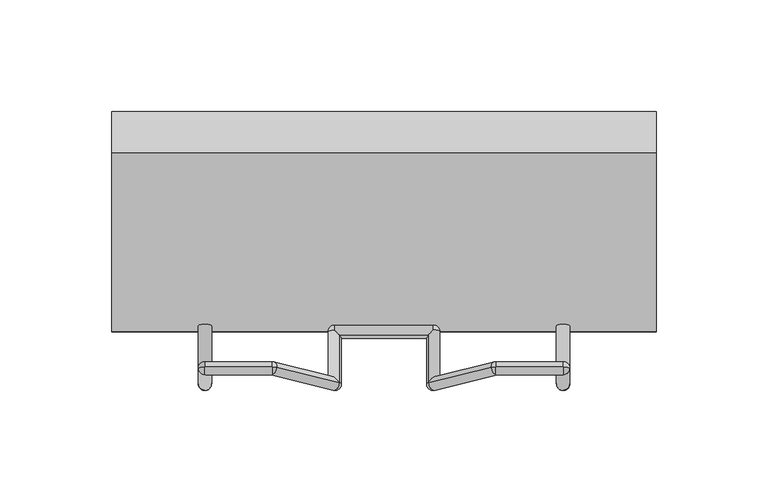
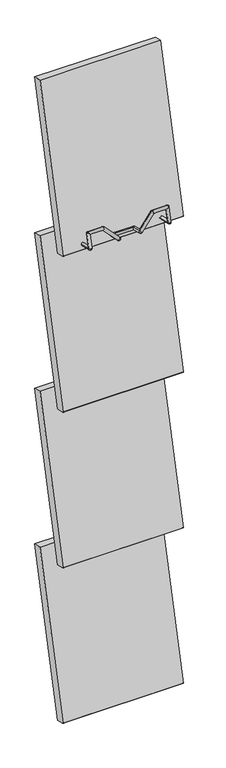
"""IFC4 building model written with IfcOpenShell, lengths in millimetres: furniture geometry, BK Library - Mag-Mag - 1440 - 1 Collum : BK Library - Mag-Mag - 1440 - 1 Collum."""

from ifc_helpers import new_model, si_unit, point, frame, frame_2d, origin, place, context, project, spatial, polyline, circle_curve, ellipse_curve, trimmed, segment, composite_curve, outline, extrude, source, transform, mapped, element, save
from ifc_brep_helpers import plane_surface, cylinder_surface, revolved_surface, advanced_brep


def furniture_4d4ee894(model_context):
    return source(origin(), model_context, "Body", "SolidModel", [
        advanced_brep(
        [(-79.9995394, -261.9406341, 1113.0660528), (-79.9995394, -264.144767, 1116.6912146), (-82.9995394, -261.2301197, 1115.9807002), (-82.9995394, -254.3618134, 1144.1556247), (-79.9995394, -253.651299, 1147.070272), (-79.9995394, -251.4471661, 1143.4451102), (-50.0045138, -253.651299, 1147.070272), (-47.8464944, -253.8682486, 1146.1803088), (-50.0045138, -251.4471661, 1143.4451102), (-21.9995394, -264.144767, 1116.6912146), (-19.9155642, -261.741221, 1113.8840783), (-19.84152, -260.7365549, 1118.0053844), (-24.9995394, -237.9129408, 1110.2965847), (-21.9995394, -234.9982934, 1109.5860702), (-21.9995394, -236.3098837, 1107.7607992), (-21.9995394, -238.6234552, 1107.3819373), (-24.1575588, -238.4065056, 1108.2719005), (22.0004606, -234.9982934, 1109.5860702), (25.0004606, -237.9129408, 1110.2965847), (24.15848, -238.4065056, 1108.2719005), (22.0004606, -238.6234552, 1107.3819373), (22.0004606, -236.3098837, 1107.7607992), (19.9164855, -261.741221, 1113.8840783), (22.0004606, -264.144767, 1116.6912146), (19.8424412, -260.7365549, 1118.0053844), (47.8474157, -253.8682486, 1146.1803088), (50.0054351, -253.651299, 1147.070272), (50.0054351, -251.4471661, 1143.4451102), (80.0004606, -253.651299, 1147.070272), (83.0004606, -254.3618134, 1144.1556247), (80.0004606, -251.4471661, 1143.4451102), (80.0004606, -264.144767, 1116.6912146), (80.0004606, -261.9406341, 1113.0660528), (83.0004606, -261.2301197, 1115.9807002), (-82.9995394, -225.2828022, 1107.2176888), (-76.9995394, -225.2828022, 1107.2176888), (-76.9995394, -261.2301197, 1115.9807002), (-76.9995394, -255.0723279, 1141.2409773), (-79.9995394, -257.2764608, 1144.8661391), (-51.2779383, -255.0723279, 1141.2409773), (-50.0045138, -257.2764608, 1144.8661391), (-24.1575588, -261.7236845, 1113.956016), (-19.84152, -239.5159978, 1112.8323702), (19.8424412, -239.5159978, 1112.8323702), (24.15848, -261.7236845, 1113.956016), (51.2788596, -255.0723279, 1141.2409773), (50.0054351, -257.2764608, 1144.8661391), (77.0004606, -255.0723279, 1141.2409773), (80.0004606, -257.2764608, 1144.8661391), (77.0004606, -261.2301197, 1115.9807002), (83.0004606, -225.2828022, 1107.2176888), (77.0004606, -225.2828022, 1107.2176888), (22.0004606, -237.2024264, 1113.211232), (-21.9995394, -237.2024264, 1113.211232)],
        [
            (0, 1, circle_curve(frame((-79.9995394, -261.2301197, 1115.9807002), z_axis=(-1.0, 0.0, 0.0), x_axis=(0.0, 0.23683814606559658, 0.9715491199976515)), 3.0)),
            (1, 2, circle_curve(frame((-79.9995394, -261.2301197, 1115.9807002), z_axis=(0.0, -0.23683814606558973, -0.9715491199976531), x_axis=(0.0, -0.9715491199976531, 0.23683814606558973)), 3.0)),
            (2, 0, circle_curve(frame((-79.9995394, -261.2301197, 1115.9807002), z_axis=(0.0, -0.9715491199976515, 0.2368381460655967), x_axis=(0.0, -0.2368381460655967, -0.9715491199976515)), 3.0)),
            (3, 4, circle_curve(frame((-79.9995394, -254.3618134, 1144.1556247), z_axis=(0.0, 0.971549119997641, -0.23683814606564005), x_axis=(1.0, 0.0, 0.0)), 3.0)),
            (4, 5, circle_curve(frame((-79.9995394, -254.3618134, 1144.1556247), z_axis=(-1.0, 0.0, 0.0), x_axis=(0.0, 0.23683814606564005, 0.971549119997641)), 3.0)),
            (5, 3, circle_curve(frame((-79.9995394, -254.3618134, 1144.1556247), z_axis=(0.0, 0.23683814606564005, 0.971549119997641), x_axis=(-1.0, 0.0, 0.0)), 3.0)),
            (6, 7, circle_curve(frame((-50.0045138, -254.3618134, 1144.1556247), z_axis=(0.0, 0.971549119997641, -0.23683814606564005), x_axis=(0.0, -0.23683814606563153, -0.971549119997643)), 3.0)),
            (7, 8, circle_curve(frame((-50.0045138, -254.3618134, 1144.1556247), z_axis=(-0.6946583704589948, 0.17036710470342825, 0.6988739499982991), x_axis=(0.7193398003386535, 0.16452160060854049, 0.6748947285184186)), 3.0)),
            (8, 6, circle_curve(frame((-50.0045138, -254.3618134, 1144.1556247), z_axis=(1.0, 0.0, 0.0), x_axis=(0.0, 0.23683814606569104, 0.9715491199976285)), 3.0)),
            (9, 10, circle_curve(frame((-21.9995394, -261.2301197, 1115.9807002), z_axis=(0.7193398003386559, 0.16452160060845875, 0.6748947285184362), x_axis=(0.0, 0.971549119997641, -0.23683814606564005)), 3.0)),
            (10, 11, circle_curve(frame((-21.9995394, -261.2301197, 1115.9807002), z_axis=(0.0, -0.9715491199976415, 0.2368381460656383), x_axis=(0.6946583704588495, -0.17036710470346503, -0.6988739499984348)), 3.0)),
            (11, 9, circle_curve(frame((-21.9995394, -261.2301197, 1115.9807002), z_axis=(0.6946583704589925, -0.17036710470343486, -0.6988739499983), x_axis=(0.0, -0.9715491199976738, 0.2368381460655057)), 3.0)),
            (12, 13, circle_curve(frame((-21.9995394, -237.9129408, 1110.2965847), z_axis=(0.0, -0.23683814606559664, -0.9715491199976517), x_axis=(-1.0, 0.0, 0.0)), 3.0)),
            (13, 14, circle_curve(frame((-21.9995394, -237.9129408, 1110.2965847), z_axis=(-1.0, 0.0, 0.0), x_axis=(0.0, 0.9715491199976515, -0.23683814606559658)), 3.0)),
            (14, 15, circle_curve(frame((-21.9995394, -237.9129408, 1110.2965847), z_axis=(-1.0, 0.0, 0.0), x_axis=(0.0, 0.9715491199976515, -0.23683814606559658)), 3.0)),
            (15, 16, circle_curve(frame((-21.9995394, -237.9129408, 1110.2965847), z_axis=(0.0, 0.9715491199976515, -0.23683814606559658), x_axis=(-1.0, 0.0, 0.0)), 3.0)),
            (16, 12, circle_curve(frame((-21.9995394, -237.9129408, 1110.2965847), z_axis=(0.0, 0.9715491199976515, -0.23683814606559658), x_axis=(-1.0, 0.0, 0.0)), 3.0)),
            (17, 18, circle_curve(frame((22.0004606, -237.9129408, 1110.2965847), z_axis=(0.0, -0.23683814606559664, -0.9715491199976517), x_axis=(0.0, -0.971549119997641, 0.23683814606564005)), 3.0)),
            (18, 19, circle_curve(frame((22.0004606, -237.9129408, 1110.2965847), z_axis=(0.0, 0.971549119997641, -0.23683814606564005), x_axis=(1.0, 0.0, 0.0)), 3.0)),
            (19, 20, circle_curve(frame((22.0004606, -237.9129408, 1110.2965847), z_axis=(0.0, 0.971549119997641, -0.23683814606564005), x_axis=(1.0, 0.0, 0.0)), 3.0)),
            (20, 21, circle_curve(frame((22.0004606, -237.9129408, 1110.2965847), z_axis=(1.0, 0.0, 0.0), x_axis=(0.0, 0.9715491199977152, -0.23683814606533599)), 3.0)),
            (21, 17, circle_curve(frame((22.0004606, -237.9129408, 1110.2965847), z_axis=(1.0, 0.0, 0.0), x_axis=(0.0, 0.9715491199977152, -0.23683814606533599)), 3.0)),
            (22, 23, circle_curve(frame((22.0004606, -261.2301197, 1115.9807002), z_axis=(-0.7193398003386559, 0.16452160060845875, 0.6748947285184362), x_axis=(-0.6946583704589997, -0.17036710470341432, -0.6988739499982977)), 3.0)),
            (23, 24, circle_curve(frame((22.0004606, -261.2301197, 1115.9807002), z_axis=(-0.6946583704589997, -0.17036710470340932, -0.6988739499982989), x_axis=(0.0, -0.9715491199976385, 0.23683814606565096)), 3.0)),
            (24, 22, circle_curve(frame((22.0004606, -261.2301197, 1115.9807002), z_axis=(-3.5409316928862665e-11, -0.9715491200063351, 0.23683814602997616), x_axis=(-0.6946583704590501, -0.1703671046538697, -0.6988739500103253)), 3.0)),
            (25, 26, circle_curve(frame((50.0054351, -254.3618134, 1144.1556247), z_axis=(0.0, 0.971549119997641, -0.23683814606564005), x_axis=(-0.7193398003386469, 0.16452160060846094, 0.6748947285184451)), 3.0)),
            (26, 27, circle_curve(frame((50.0054351, -254.3618134, 1144.1556247), z_axis=(-1.0, 0.0, 0.0), x_axis=(0.0, 0.2368381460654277, 0.9715491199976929)), 3.0)),
            (27, 25, circle_curve(frame((50.0054351, -254.3618134, 1144.1556247), z_axis=(0.6946583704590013, 0.17036710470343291, 0.6988739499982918), x_axis=(-0.7193398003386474, 0.16452160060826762, 0.6748947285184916)), 3.0)),
            (28, 29, circle_curve(frame((80.0004606, -254.3618134, 1144.1556247), z_axis=(0.0, 0.971549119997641, -0.23683814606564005), x_axis=(0.0, 0.23683814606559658, 0.9715491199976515)), 3.0)),
            (29, 30, circle_curve(frame((80.0004606, -254.3618134, 1144.1556247), z_axis=(0.0, 0.23683814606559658, 0.9715491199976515), x_axis=(1.0, 0.0, 0.0)), 3.0)),
            (30, 28, circle_curve(frame((80.0004606, -254.3618134, 1144.1556247), z_axis=(1.0, 0.0, -2.6767436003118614e-12), x_axis=(2.7551294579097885e-12, 0.23683814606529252, 0.9715491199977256)), 3.0)),
            (31, 32, circle_curve(frame((80.0004606, -261.2301197, 1115.9807002), z_axis=(1.0, 0.0, 0.0), x_axis=(0.0, -0.971549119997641, 0.23683814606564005)), 3.0)),
            (32, 33, circle_curve(frame((80.0004606, -261.2301197, 1115.9807002), z_axis=(0.0, -0.9715491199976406, 0.23683814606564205), x_axis=(0.0, -0.23683814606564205, -0.9715491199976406)), 3.0)),
            (33, 31, circle_curve(frame((80.0004606, -261.2301197, 1115.9807002), z_axis=(0.0, -0.2368381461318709, -0.9715491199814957), x_axis=(0.0, -0.9715491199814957, 0.2368381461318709)), 3.0)),
            (2, 34),
            (34, 35, circle_curve(frame((-79.9995394, -225.2828022, 1107.2176888), z_axis=(0.0, -0.9715491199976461, 0.23683814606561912), x_axis=(-1.0, 0.0, 0.0)), 3.0)),
            (35, 36),
            (36, 0, circle_curve(frame((-79.9995394, -261.2301197, 1115.9807002), z_axis=(0.0, 0.9715491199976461, -0.23683814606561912), x_axis=(-1.0, 0.0, 0.0)), 3.0)),
            (3, 2),
            (1, 36, circle_curve(frame((-79.9995394, -261.2301197, 1115.9807002), z_axis=(0.0, 0.23683814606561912, 0.9715491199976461), x_axis=(-1.0, 0.0, 0.0)), 3.0)),
            (36, 37),
            (37, 38, ellipse_curve(frame((-79.9995394, -254.3618134, 1144.1556247), z_axis=(-0.7071067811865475, -0.1674698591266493, -0.6869889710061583), x_axis=(0.7071067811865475, -0.1674698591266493, -0.6869889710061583)), 4.2426407, 3.0)),
            (38, 3, circle_curve(frame((-79.9995394, -254.3618134, 1144.1556247), z_axis=(0.0, -0.23683814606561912, -0.9715491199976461), x_axis=(-1.0, 0.0, 0.0)), 3.0)),
            (6, 4),
            (4, 38, circle_curve(frame((-79.9995394, -254.3618134, 1144.1556247), z_axis=(1.0, 0.0, 0.0), x_axis=(0.0, 0.23683814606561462, 0.9715491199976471)), 3.0)),
            (37, 39),
            (39, 40, ellipse_curve(frame((-50.0045138, -254.3618134, 1144.1556247), z_axis=(-0.9205048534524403, 0.09254003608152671, 0.37961448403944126), x_axis=(-0.3907311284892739, -0.21801066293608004, -0.8943156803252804)), 3.2590811, 3.0)),
            (40, 6, circle_curve(frame((-50.0045138, -254.3618134, 1144.1556247), z_axis=(-1.0, 0.0, 0.0), x_axis=(0.0, 0.23683814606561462, 0.9715491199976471)), 3.0)),
            (11, 7),
            (7, 40, circle_curve(frame((-50.0045138, -254.3618134, 1144.1556247), z_axis=(0.694658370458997, -0.17036710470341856, -0.6988739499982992), x_axis=(0.7193398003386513, 0.16452160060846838, 0.6748947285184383)), 3.0)),
            (39, 41),
            (41, 9, circle_curve(frame((-21.9995394, -261.2301197, 1115.9807002), z_axis=(-0.694658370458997, 0.17036710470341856, 0.6988739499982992), x_axis=(0.7193398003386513, 0.16452160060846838, 0.6748947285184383)), 3.0)),
            (42, 11),
            (10, 41, circle_curve(frame((-21.9995394, -261.2301197, 1115.9807002), z_axis=(0.0, 0.9715491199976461, -0.23683814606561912), x_axis=(0.719339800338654, 0.16452160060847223, 0.6748947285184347)), 3.0)),
            (41, 16),
            (15, 42, ellipse_curve(frame((-21.9995394, -237.9129408, 1110.2965847), z_axis=(-0.7071067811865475, -0.6869889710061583, 0.1674698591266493), x_axis=(0.7071067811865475, -0.6869889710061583, 0.1674698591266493)), 4.2426407, 3.0)),
            (43, 42),
            (14, 21),
            (20, 43, ellipse_curve(frame((22.0004606, -237.9129408, 1110.2965847), z_axis=(-0.7071067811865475, 0.6869889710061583, -0.16746985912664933), x_axis=(-0.7071067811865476, -0.6869889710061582, 0.1674698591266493)), 4.2426407, 3.0)),
            (24, 43),
            (19, 44),
            (44, 22, circle_curve(frame((22.0004606, -261.2301197, 1115.9807002), z_axis=(0.0, 0.9715491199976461, -0.23683814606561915), x_axis=(-0.7193398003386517, 0.16452160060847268, 0.6748947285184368)), 3.0)),
            (25, 24),
            (23, 44, circle_curve(frame((22.0004606, -261.2301197, 1115.9807002), z_axis=(0.6946583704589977, 0.17036710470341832, 0.6988739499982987), x_axis=(-0.7193398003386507, 0.16452160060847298, 0.674894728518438)), 3.0)),
            (44, 45),
            (45, 46, ellipse_curve(frame((50.0054351, -254.3618134, 1144.1556247), z_axis=(-0.9205048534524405, -0.09254003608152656, -0.37961448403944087), x_axis=(0.3907311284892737, -0.21801066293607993, -0.8943156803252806)), 3.2590811, 3.0)),
            (46, 25, circle_curve(frame((50.0054351, -254.3618134, 1144.1556247), z_axis=(-0.6946583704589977, -0.17036710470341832, -0.6988739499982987), x_axis=(-0.7193398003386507, 0.16452160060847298, 0.674894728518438)), 3.0)),
            (28, 26),
            (26, 46, circle_curve(frame((50.0054351, -254.3618134, 1144.1556247), z_axis=(1.0, 0.0, 0.0), x_axis=(0.0, 0.236838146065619, 0.9715491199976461)), 3.0)),
            (45, 47),
            (47, 48, ellipse_curve(frame((80.0004606, -254.3618134, 1144.1556247), z_axis=(-0.7071067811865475, 0.1674698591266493, 0.6869889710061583), x_axis=(-0.7071067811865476, -0.16746985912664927, -0.6869889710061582)), 4.2426407, 3.0)),
            (48, 28, circle_curve(frame((80.0004606, -254.3618134, 1144.1556247), z_axis=(-1.0, 0.0, 0.0), x_axis=(0.0, 0.236838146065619, 0.9715491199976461)), 3.0)),
            (33, 29),
            (29, 48, circle_curve(frame((80.0004606, -254.3618134, 1144.1556247), z_axis=(0.0, -0.23683814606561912, -0.9715491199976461), x_axis=(1.0, 0.0, 0.0)), 3.0)),
            (47, 49),
            (49, 31, circle_curve(frame((80.0004606, -261.2301197, 1115.9807002), z_axis=(0.0, 0.23683814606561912, 0.9715491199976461), x_axis=(1.0, 0.0, 0.0)), 3.0)),
            (50, 33),
            (32, 49, circle_curve(frame((80.0004606, -261.2301197, 1115.9807002), z_axis=(0.0, 0.9715491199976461, -0.23683814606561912), x_axis=(1.0, 0.0, 0.0)), 3.0)),
            (49, 51),
            (51, 50, circle_curve(frame((80.0004606, -225.2828022, 1107.2176888), z_axis=(0.0, -0.9715491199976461, 0.23683814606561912), x_axis=(1.0, 0.0, 0.0)), 3.0)),
            (51, 50, circle_curve(frame((80.0004606, -225.2828022, 1107.2176888), z_axis=(0.0, 0.9715491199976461, -0.23683814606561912), x_axis=(1.0, 0.0, 0.0)), 3.0)),
            (49, 33, ellipse_curve(frame((80.0004606, -261.2301197, 1115.9807002), z_axis=(0.0, 0.5195191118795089, -0.8544588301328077), x_axis=(0.0, -0.8544588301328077, -0.5195191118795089)), 4.2426407, 3.0)),
            (47, 30, ellipse_curve(frame((80.0004606, -254.3618134, 1144.1556247), z_axis=(0.7071067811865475, -0.1674698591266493, -0.6869889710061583), x_axis=(0.7071067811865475, 0.1674698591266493, 0.6869889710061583)), 4.2426407, 3.0)),
            (45, 27, ellipse_curve(frame((50.0054351, -254.3618134, 1144.1556247), z_axis=(0.9205048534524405, 0.09254003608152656, 0.37961448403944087), x_axis=(-0.39073112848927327, 0.21801066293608, 0.894315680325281)), 3.2590811, 3.0)),
            (44, 24, ellipse_curve(frame((22.0004606, -261.2301197, 1115.9807002), z_axis=(0.49119764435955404, -0.5665212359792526, 0.6616483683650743), x_axis=(-0.4911976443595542, -0.8074567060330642, -0.3267086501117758)), 4.2426407, 3.0)),
            (18, 52, circle_curve(frame((22.0004606, -237.9129408, 1110.2965847), z_axis=(0.0, -0.9715491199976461, 0.23683814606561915), x_axis=(-0.7193398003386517, 0.16452160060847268, 0.6748947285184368)), 3.0)),
            (52, 43, ellipse_curve(frame((22.0004606, -237.9129408, 1110.2965847), z_axis=(0.7071067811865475, -0.6869889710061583, 0.16746985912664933), x_axis=(0.7071067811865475, 0.6869889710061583, -0.16746985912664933)), 4.2426407, 3.0)),
            (17, 52, circle_curve(frame((22.0004606, -237.9129408, 1110.2965847), z_axis=(1.0, 0.0, 0.0), x_axis=(0.0, 0.9715491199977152, -0.23683814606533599)), 3.0)),
            (13, 53, circle_curve(frame((-21.9995394, -237.9129408, 1110.2965847), z_axis=(1.0, 0.0, 0.0), x_axis=(0.0, -0.534352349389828, 0.8452618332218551)), 3.0)),
            (53, 42, ellipse_curve(frame((-21.9995394, -237.9129408, 1110.2965847), z_axis=(0.7071067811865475, 0.6869889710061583, -0.1674698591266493), x_axis=(-0.7071067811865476, 0.6869889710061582, -0.16746985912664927)), 4.2426407, 3.0)),
            (12, 53, circle_curve(frame((-21.9995394, -237.9129408, 1110.2965847), z_axis=(0.0, 0.9715491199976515, -0.23683814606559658), x_axis=(-1.0, 0.0, 0.0)), 3.0)),
            (41, 11, ellipse_curve(frame((-21.9995394, -261.2301197, 1115.9807002), z_axis=(0.49119764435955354, 0.5665212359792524, -0.6616483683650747), x_axis=(0.4911976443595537, -0.8074567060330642, -0.32670865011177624)), 4.2426407, 3.0)),
            (39, 8, ellipse_curve(frame((-50.0045138, -254.3618134, 1144.1556247), z_axis=(0.9205048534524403, -0.09254003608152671, -0.37961448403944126), x_axis=(0.3907311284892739, 0.21801066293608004, 0.8943156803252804)), 3.2590811, 3.0)),
            (37, 5, ellipse_curve(frame((-79.9995394, -254.3618134, 1144.1556247), z_axis=(0.7071067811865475, 0.1674698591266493, 0.6869889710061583), x_axis=(-0.7071067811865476, 0.16746985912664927, 0.6869889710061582)), 4.2426407, 3.0)),
            (36, 2, ellipse_curve(frame((-79.9995394, -261.2301197, 1115.9807002), z_axis=(0.0, -0.5195191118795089, 0.8544588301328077), x_axis=(0.0, -0.8544588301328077, -0.5195191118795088)), 4.2426407, 3.0)),
            (35, 34, circle_curve(frame((-79.9995394, -225.2828022, 1107.2176888), z_axis=(0.0, -0.9715491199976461, 0.23683814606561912), x_axis=(-1.0, 0.0, 0.0)), 3.0)),
        ],
        [
            revolved_surface(trimmed(ellipse_curve(frame((-79.9995394, -261.2301197, 1115.9807002), z_axis=(0.0, -0.9715491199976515, 0.23683814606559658), x_axis=(0.0, 0.23683814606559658, 0.9715491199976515)), 3.0, 3.0), [point((-79.9995394, -260.5196052, 1118.8953475))], [point((-82.9995394, -261.2301197, 1115.9807002))], True, "CARTESIAN"), (-79.9995394, -261.2301197, 1115.9807002), (-1.0, 0.0, 0.0)),
            revolved_surface(trimmed(ellipse_curve(frame((-79.9995394, -254.3618134, 1144.1556247), z_axis=(0.0, 0.23683814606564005, 0.971549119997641), x_axis=(1.0, 0.0, 0.0)), 3.0, 3.0), [point((-76.9995394, -254.3618134, 1144.1556247))], [point((-79.9995394, -251.4471661, 1143.4451102))], True, "CARTESIAN"), (-79.9995394, -254.3618134, 1144.1556247), (0.0, 0.971549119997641, -0.23683814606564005)),
            revolved_surface(trimmed(ellipse_curve(frame((-50.0045138, -254.3618134, 1144.1556247), z_axis=(1.0, 0.0, 0.0), x_axis=(0.0, -0.23683814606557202, -0.9715491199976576)), 3.0, 3.0), [point((-50.0045138, -255.0723279, 1141.2409773))], [point((-50.0045138, -251.4471661, 1143.4451102))], True, "CARTESIAN"), (-50.0045138, -254.3618134, 1144.1556247), (0.0, 0.971549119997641, -0.23683814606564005)),
            revolved_surface(trimmed(ellipse_curve(frame((-21.9995394, -261.2301197, 1115.9807002), z_axis=(0.6946583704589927, -0.1703671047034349, -0.6988739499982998), x_axis=(0.0, 0.9715491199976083, -0.23683814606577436)), 3.0, 3.0), [point((-21.9995394, -258.3154723, 1115.2701857))], [point((-19.84152, -260.7365549, 1118.0053844))], True, "CARTESIAN"), (-21.9995394, -261.2301197, 1115.9807002), (0.7193398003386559, 0.16452160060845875, 0.6748947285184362)),
            revolved_surface(trimmed(ellipse_curve(frame((-21.9995394, -237.9129408, 1110.2965847), z_axis=(0.0, -0.9715491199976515, 0.23683814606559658), x_axis=(-1.0, 0.0, 0.0)), 3.0, 3.0), [point((-24.9995394, -237.9129408, 1110.2965847))], [point((-21.9995394, -238.6234552, 1107.3819373))], True, "CARTESIAN"), (-21.9995394, -237.9129408, 1110.2965847), (0.0, -0.23683814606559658, -0.9715491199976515)),
            revolved_surface(trimmed(ellipse_curve(frame((22.0004606, -237.9129408, 1110.2965847), z_axis=(1.0, 0.0, 0.0), x_axis=(0.0, -0.9715491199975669, 0.2368381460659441)), 3.0, 3.0), [point((22.0004606, -240.8275882, 1111.0070991))], [point((22.0004606, -238.6234552, 1107.3819373))], True, "CARTESIAN"), (22.0004606, -237.9129408, 1110.2965847), (0.0, -0.23683814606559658, -0.9715491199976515)),
            revolved_surface(trimmed(ellipse_curve(frame((22.0004606, -261.2301197, 1115.9807002), z_axis=(0.0, 0.9715491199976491, -0.23683814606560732), x_axis=(-0.6946583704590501, -0.17036710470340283, -0.6988739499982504)), 3.0, 3.0), [point((19.9164855, -261.741221, 1113.8840783))], [point((19.8424412, -260.7365549, 1118.0053844))], True, "CARTESIAN"), (22.0004606, -261.2301197, 1115.9807002), (-0.7193398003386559, 0.16452160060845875, 0.6748947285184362)),
            revolved_surface(trimmed(ellipse_curve(frame((50.0054351, -254.3618134, 1144.1556247), z_axis=(-0.6946583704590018, -0.17036710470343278, -0.6988739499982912), x_axis=(-0.7193398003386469, 0.16452160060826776, 0.6748947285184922)), 3.0, 3.0), [point((47.8474157, -253.8682486, 1146.1803088))], [point((50.0054351, -251.4471661, 1143.4451102))], True, "CARTESIAN"), (50.0054351, -254.3618134, 1144.1556247), (0.0, 0.971549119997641, -0.23683814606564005)),
            revolved_surface(trimmed(ellipse_curve(frame((80.0004606, -254.3618134, 1144.1556247), z_axis=(-1.0, 0.0, 0.0), x_axis=(0.0, 0.23683814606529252, 0.9715491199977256)), 3.0, 3.0), [point((80.0004606, -253.651299, 1147.070272))], [point((80.0004606, -251.4471661, 1143.4451102))], True, "CARTESIAN"), (80.0004606, -254.3618134, 1144.1556247), (0.0, 0.971549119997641, -0.23683814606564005)),
            revolved_surface(trimmed(ellipse_curve(frame((80.0004606, -261.2301197, 1115.9807002), z_axis=(0.0, 0.23683814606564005, 0.971549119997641), x_axis=(0.0, -0.971549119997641, 0.23683814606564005)), 3.0, 3.0), [point((80.0004606, -264.144767, 1116.6912146))], [point((83.0004606, -261.2301197, 1115.9807002))], True, "CARTESIAN"), (80.0004606, -261.2301197, 1115.9807002), (1.0, 0.0, 0.0)),
            cylinder_surface(frame((-79.9995394, -225.2828022, 1107.2176888), z_axis=(0.0, 0.9715491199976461, -0.23683814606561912), x_axis=(-1.0, 0.0, 0.0)), 3.0),
            cylinder_surface(frame((-79.9995394, -261.2301197, 1115.9807002), z_axis=(0.0, -0.23683814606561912, -0.9715491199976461), x_axis=(-1.0, 0.0, 0.0)), 3.0),
            cylinder_surface(frame((-79.9995394, -254.3618134, 1144.1556247), z_axis=(-1.0, 0.0, 0.0), x_axis=(0.0, 0.23683814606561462, 0.9715491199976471)), 3.0),
            cylinder_surface(frame((-50.0045138, -254.3618134, 1144.1556247), z_axis=(-0.694658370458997, 0.17036710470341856, 0.6988739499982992), x_axis=(0.7193398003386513, 0.16452160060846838, 0.6748947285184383)), 3.0),
            cylinder_surface(frame((-21.9995394, -261.2301197, 1115.9807002), z_axis=(0.0, -0.9715491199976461, 0.23683814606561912), x_axis=(0.719339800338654, 0.16452160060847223, 0.6748947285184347)), 3.0),
            cylinder_surface(frame((-21.9995394, -237.9129408, 1110.2965847), z_axis=(-1.0, 0.0, 0.0), x_axis=(0.0, -0.534352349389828, 0.8452618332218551)), 3.0),
            cylinder_surface(frame((22.0004606, -237.9129408, 1110.2965847), z_axis=(0.0, 0.9715491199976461, -0.23683814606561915), x_axis=(-0.7193398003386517, 0.16452160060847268, 0.6748947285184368)), 3.0),
            cylinder_surface(frame((22.0004606, -261.2301197, 1115.9807002), z_axis=(-0.6946583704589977, -0.17036710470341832, -0.6988739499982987), x_axis=(-0.7193398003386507, 0.16452160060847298, 0.674894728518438)), 3.0),
            cylinder_surface(frame((50.0054351, -254.3618134, 1144.1556247), z_axis=(-1.0, 0.0, 0.0), x_axis=(0.0, 0.236838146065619, 0.9715491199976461)), 3.0),
            cylinder_surface(frame((80.0004606, -254.3618134, 1144.1556247), z_axis=(0.0, 0.23683814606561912, 0.9715491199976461), x_axis=(1.0, 0.0, 0.0)), 3.0),
            cylinder_surface(frame((80.0004606, -261.2301197, 1115.9807002), z_axis=(0.0, -0.9715491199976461, 0.23683814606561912), x_axis=(1.0, 0.0, 0.0)), 3.0),
            plane_surface(frame((80.0004606, -225.2828022, 1107.2176888), z_axis=(0.0, 0.9715491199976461, -0.23683814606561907), x_axis=(0.0, 0.23683814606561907, 0.9715491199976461))),
            revolved_surface(trimmed(ellipse_curve(frame((80.0004606, -261.2301197, 1115.9807002), z_axis=(0.0, 0.23683814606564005, 0.971549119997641), x_axis=(0.0, -0.971549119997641, 0.23683814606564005)), 3.0, 3.0), [point((77.0004606, -261.2301197, 1115.9807002))], [point((80.0004606, -264.144767, 1116.6912146))], True, "CARTESIAN"), (80.0004606, -261.2301197, 1115.9807002), (1.0, 0.0, 0.0)),
            revolved_surface(trimmed(ellipse_curve(frame((80.0004606, -254.3618134, 1144.1556247), z_axis=(-1.0, 0.0, 0.0), x_axis=(0.0, 0.23683814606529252, 0.9715491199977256)), 3.0, 3.0), [point((80.0004606, -257.2764608, 1144.8661391))], [point((80.0004606, -253.651299, 1147.070272))], True, "CARTESIAN"), (80.0004606, -254.3618134, 1144.1556247), (0.0, 0.971549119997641, -0.23683814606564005)),
            revolved_surface(trimmed(ellipse_curve(frame((50.0054351, -254.3618134, 1144.1556247), z_axis=(-0.6946583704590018, -0.17036710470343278, -0.6988739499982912), x_axis=(-0.7193398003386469, 0.16452160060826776, 0.6748947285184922)), 3.0, 3.0), [point((50.0054351, -257.2764608, 1144.8661391))], [point((47.8474157, -253.8682486, 1146.1803088))], True, "CARTESIAN"), (50.0054351, -254.3618134, 1144.1556247), (0.0, 0.971549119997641, -0.23683814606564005)),
            revolved_surface(trimmed(ellipse_curve(frame((22.0004606, -261.2301197, 1115.9807002), z_axis=(0.0, 0.9715491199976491, -0.23683814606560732), x_axis=(-0.6946583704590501, -0.17036710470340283, -0.6988739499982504)), 3.0, 3.0), [point((24.15848, -261.7236845, 1113.956016))], [point((19.9164855, -261.741221, 1113.8840783))], True, "CARTESIAN"), (22.0004606, -261.2301197, 1115.9807002), (-0.7193398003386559, 0.16452160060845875, 0.6748947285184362)),
            revolved_surface(trimmed(ellipse_curve(frame((22.0004606, -237.9129408, 1110.2965847), z_axis=(1.0, 0.0, 0.0), x_axis=(0.0, -0.9715491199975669, 0.2368381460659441)), 3.0, 3.0), [point((22.0004606, -237.2024264, 1113.211232))], [point((22.0004606, -240.8275882, 1111.0070991))], True, "CARTESIAN"), (22.0004606, -237.9129408, 1110.2965847), (0.0, -0.23683814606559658, -0.9715491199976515)),
            revolved_surface(trimmed(ellipse_curve(frame((-21.9995394, -237.9129408, 1110.2965847), z_axis=(0.0, -0.9715491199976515, 0.23683814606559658), x_axis=(-1.0, 0.0, 0.0)), 3.0, 3.0), [point((-21.9995394, -237.2024264, 1113.211232))], [point((-24.9995394, -237.9129408, 1110.2965847))], True, "CARTESIAN"), (-21.9995394, -237.9129408, 1110.2965847), (0.0, -0.23683814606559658, -0.9715491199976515)),
            revolved_surface(trimmed(ellipse_curve(frame((-21.9995394, -261.2301197, 1115.9807002), z_axis=(0.6946583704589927, -0.1703671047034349, -0.6988739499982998), x_axis=(0.0, 0.9715491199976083, -0.23683814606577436)), 3.0, 3.0), [point((-24.1575588, -261.7236845, 1113.956016))], [point((-21.9995394, -258.3154723, 1115.2701857))], True, "CARTESIAN"), (-21.9995394, -261.2301197, 1115.9807002), (0.7193398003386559, 0.16452160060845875, 0.6748947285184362)),
            revolved_surface(trimmed(ellipse_curve(frame((-50.0045138, -254.3618134, 1144.1556247), z_axis=(1.0, 0.0, 0.0), x_axis=(0.0, -0.23683814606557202, -0.9715491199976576)), 3.0, 3.0), [point((-50.0045138, -257.2764608, 1144.8661391))], [point((-50.0045138, -255.0723279, 1141.2409773))], True, "CARTESIAN"), (-50.0045138, -254.3618134, 1144.1556247), (0.0, 0.971549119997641, -0.23683814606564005)),
            revolved_surface(trimmed(ellipse_curve(frame((-79.9995394, -254.3618134, 1144.1556247), z_axis=(0.0, 0.23683814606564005, 0.971549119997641), x_axis=(1.0, 0.0, 0.0)), 3.0, 3.0), [point((-79.9995394, -257.2764608, 1144.8661391))], [point((-76.9995394, -254.3618134, 1144.1556247))], True, "CARTESIAN"), (-79.9995394, -254.3618134, 1144.1556247), (0.0, 0.971549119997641, -0.23683814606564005)),
            revolved_surface(trimmed(ellipse_curve(frame((-79.9995394, -261.2301197, 1115.9807002), z_axis=(0.0, -0.9715491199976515, 0.23683814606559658), x_axis=(0.0, 0.23683814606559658, 0.9715491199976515)), 3.0, 3.0), [point((-76.9995394, -261.2301197, 1115.9807002))], [point((-79.9995394, -260.5196052, 1118.8953475))], True, "CARTESIAN"), (-79.9995394, -261.2301197, 1115.9807002), (-1.0, 0.0, 0.0)),
            plane_surface(frame((-79.9995394, -225.2828022, 1107.2176888), z_axis=(0.0, 0.9715491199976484, -0.23683814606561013), x_axis=(0.0, 0.23683814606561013, 0.9715491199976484))),
        ],
        [
            (0, [[1, 2, 3]]),
            (1, [[4, 5, 6]]),
            (2, [[7, 8, 9]]),
            (3, [[10, 11, 12]]),
            (4, [[13, 14, 15, 16, 17]]),
            (5, [[18, 19, 20, 21, 22]]),
            (6, [[23, 24, 25]]),
            (7, [[26, 27, 28]]),
            (8, [[29, 30, 31]]),
            (9, [[32, 33, 34]]),
            (10, [[35, 36, 37, 38, -3]]),
            (11, [[39, -2, 40, 41, 42, 43]]),
            (12, [[44, 45, -42, 46, 47, 48]]),
            (13, [[49, 50, -47, 51, 52, -12]]),
            (14, [[53, -11, 54, 55, -16, 56]]),
            (15, [[57, -56, -15, 58, -21, 59]]),
            (16, [[60, -59, -20, 61, 62, -25]]),
            (17, [[63, -24, 64, 65, 66, 67]]),
            (18, [[68, 69, -66, 70, 71, 72]]),
            (19, [[73, 74, -71, 75, 76, -34]]),
            (20, [[77, -33, 78, 79, 80]]),
            (21, [[-80, 81]]),
            (22, [[-32, -76, -78]]),
            (20, [[-77, -81, -79, 82]]),
            (19, [[-73, -82, -75, 83, -30]]),
            (23, [[-29, -72, -74]]),
            (18, [[-68, -31, -83, -70, 84, -27]]),
            (24, [[-26, -67, -69]]),
            (17, [[-63, -28, -84, -65, 85]]),
            (25, [[-23, -62, -64]]),
            (16, [[-60, -85, -61, -19, 86, 87]]),
            (26, [[-18, 88, -86]]),
            (15, [[-57, -87, -88, -22, -58, -14, 89, 90]]),
            (27, [[-13, 91, -89]]),
            (14, [[-53, -90, -91, -17, -55, 92]]),
            (28, [[-10, -52, -54]]),
            (13, [[-49, -92, -51, 93, -8]]),
            (29, [[-7, -48, -50]]),
            (12, [[-44, -9, -93, -46, 94, -5]]),
            (30, [[-4, -43, -45]]),
            (11, [[-39, -6, -94, -41, 95]]),
            (31, [[-1, -38, -40]]),
            (10, [[-35, -95, -37, 96]]),
            (32, [[-36, -96]]),
        ],
    ),
        extrude(outline(composite_curve([segment(polyline([(-158.167246, 431.7596931), (-139.7078127, 427.2597683), (-219.4851448, 100.0), (-237.4588036, 104.3815057)]), True, "CONTINUOUS"), segment(trimmed(circle_curve(frame_2d((-237.3403845, 104.8672803)), 0.5), [point((-237.4588036, 104.3815057))], [point((-237.826159, 104.9856993))], False, "CARTESIAN"), True, "CONTINUOUS"), segment(polyline([(-237.826159, 104.9856993), (-158.167246, 431.7596931)]), True, "CONTINUOUS")], self_intersect=False)), frame((-121.5, 0.0, 0.0), z_axis=(1.0, 0.0, 0.0), x_axis=(0.0, 1.0, 0.0)), (0.0, 0.0, 1.0), 243.0),
        extrude(outline(composite_curve([segment(polyline([(-158.167246, 763.3596931), (-139.7078127, 758.8597683), (-219.4851448, 431.6), (-237.4588036, 435.9815057)]), True, "CONTINUOUS"), segment(trimmed(circle_curve(frame_2d((-237.3403845, 436.4672803)), 0.5), [point((-237.4588036, 435.9815057))], [point((-237.826159, 436.5856993))], False, "CARTESIAN"), True, "CONTINUOUS"), segment(polyline([(-237.826159, 436.5856993), (-158.167246, 763.3596931)]), True, "CONTINUOUS")], self_intersect=False)), frame((-121.5, 0.0, 0.0), z_axis=(1.0, 0.0, 0.0), x_axis=(0.0, 1.0, 0.0)), (0.0, 0.0, 1.0), 243.0),
        extrude(outline(composite_curve([segment(polyline([(-158.167246, 1094.9596931), (-139.7078127, 1090.4597683), (-219.4851448, 763.2), (-237.4588036, 767.5815057)]), True, "CONTINUOUS"), segment(trimmed(circle_curve(frame_2d((-237.3403845, 768.0672803)), 0.5), [point((-237.4588036, 767.5815057))], [point((-237.826159, 768.1856993))], False, "CARTESIAN"), True, "CONTINUOUS"), segment(polyline([(-237.826159, 768.1856993), (-158.167246, 1094.9596931)]), True, "CONTINUOUS")], self_intersect=False)), frame((-121.5, 0.0, 0.0), z_axis=(1.0, 0.0, 0.0), x_axis=(0.0, 1.0, 0.0)), (0.0, 0.0, 1.0), 243.0),
        extrude(outline(composite_curve([segment(polyline([(-158.167246, 1426.5596931), (-139.7078127, 1422.0597683), (-219.4851448, 1094.8), (-237.4588036, 1099.1815057)]), True, "CONTINUOUS"), segment(trimmed(circle_curve(frame_2d((-237.3403845, 1099.6672803)), 0.5), [point((-237.4588036, 1099.1815057))], [point((-237.826159, 1099.7856993))], False, "CARTESIAN"), True, "CONTINUOUS"), segment(polyline([(-237.826159, 1099.7856993), (-158.167246, 1426.5596931)]), True, "CONTINUOUS")], self_intersect=False)), frame((-121.5, 0.0, 0.0), z_axis=(1.0, 0.0, 0.0), x_axis=(0.0, 1.0, 0.0)), (0.0, 0.0, 1.0), 243.0),
    ])


if __name__ == "__main__":
    model = new_model("IFC4")
    model_context = context("Model", 3, world=origin())
    ifc_project = project(units=[si_unit("LENGTHUNIT", "METRE", prefix="MILLI")], contexts=[model_context])
    site = spatial("IfcSite", under=ifc_project)
    building = spatial("IfcBuilding", under=site)
    placement = place(None, origin())
    furniture_shape = furniture_4d4ee894(model_context)
    element("IfcFurniture", 1, ObjectType="BK Library - Mag-Mag - 1440 - 1 Collum : BK Library - Mag-Mag - 1440 - 1 Collum", at=placement, inside=building, context=model_context, shape_type="MappedRepresentation", body=[
        mapped(furniture_shape, transform((0.0, 0.0, 0.0), x_axis=(1.0, 0.0, 0.0), y_axis=(0.0, 1.0, 0.0), z_axis=(0.0, 0.0, 1.0))),
    ])
    save(model, "model.ifc")
